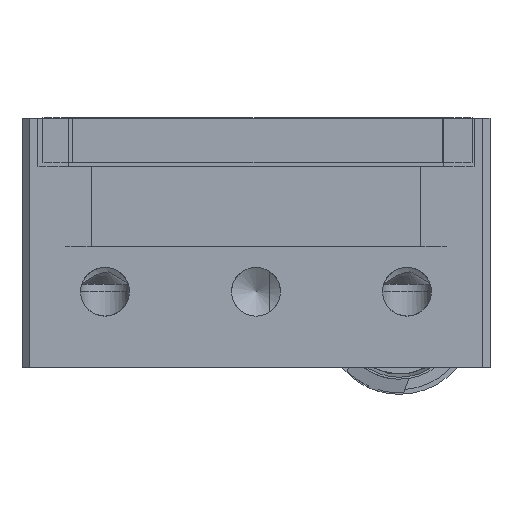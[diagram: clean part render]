
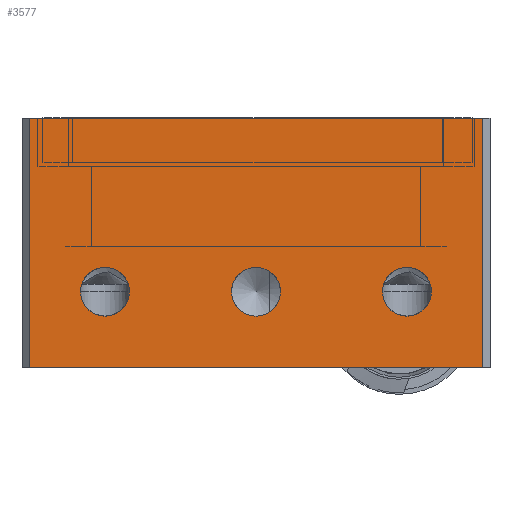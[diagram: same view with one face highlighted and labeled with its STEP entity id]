
A CAD part, front view. The second image highlights one B-rep face of the part: STEP entity #3577.
In plain terms, the highlighted planar face has unit normal (0, -1, 0).
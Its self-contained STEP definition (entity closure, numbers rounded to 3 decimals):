
#304=CIRCLE('',#5285,1.621);
#308=CIRCLE('',#5295,1.621);
#312=CIRCLE('',#5308,1.621);
#1172=ORIENTED_EDGE('',*,*,#1600,.T.);
#1173=ORIENTED_EDGE('',*,*,#1609,.T.);
#1174=ORIENTED_EDGE('',*,*,#1593,.T.);
#1175=ORIENTED_EDGE('',*,*,#1796,.F.);
#1176=ORIENTED_EDGE('',*,*,#1797,.T.);
#1177=ORIENTED_EDGE('',*,*,#1798,.T.);
#1178=ORIENTED_EDGE('',*,*,#1799,.T.);
#1593=EDGE_CURVE('',#2037,#2037,#304,.T.);
#1600=EDGE_CURVE('',#2042,#2042,#308,.T.);
#1609=EDGE_CURVE('',#2047,#2047,#312,.T.);
#1796=EDGE_CURVE('',#2172,#2173,#2407,.T.);
#1797=EDGE_CURVE('',#2172,#2174,#2408,.T.);
#1798=EDGE_CURVE('',#2174,#2175,#2409,.T.);
#1799=EDGE_CURVE('',#2175,#2173,#2410,.T.);
#2037=VERTEX_POINT('',#7742);
#2042=VERTEX_POINT('',#7757);
#2047=VERTEX_POINT('',#7775);
#2172=VERTEX_POINT('',#8326);
#2173=VERTEX_POINT('',#8327);
#2174=VERTEX_POINT('',#8329);
#2175=VERTEX_POINT('',#8331);
#2407=LINE('',#8325,#2647);
#2408=LINE('',#8328,#2648);
#2409=LINE('',#8330,#2649);
#2410=LINE('',#8332,#2650);
#2647=VECTOR('',#6397,1000.);
#2648=VECTOR('',#6398,1000.);
#2649=VECTOR('',#6399,1000.);
#2650=VECTOR('',#6400,1000.);
#2940=EDGE_LOOP('',(#1172));
#2941=EDGE_LOOP('',(#1173));
#2942=EDGE_LOOP('',(#1174));
#2943=EDGE_LOOP('',(#1175,#1176,#1177,#1178));
#3239=FACE_BOUND('',#2940,.T.);
#3240=FACE_BOUND('',#2941,.T.);
#3241=FACE_BOUND('',#2942,.T.);
#3242=FACE_BOUND('',#2943,.T.);
#3375=PLANE('',#5443);
#3577=ADVANCED_FACE('',(#3239,#3240,#3241,#3242),#3375,.F.);
#5285=AXIS2_PLACEMENT_3D('',#7741,#5981,#5982);
#5295=AXIS2_PLACEMENT_3D('',#7756,#6001,#6002);
#5308=AXIS2_PLACEMENT_3D('',#7774,#6027,#6028);
#5443=AXIS2_PLACEMENT_3D('',#8324,#6395,#6396);
#5981=DIRECTION('',(0.,1.,0.));
#5982=DIRECTION('',(0.,0.,-1.));
#6001=DIRECTION('',(0.,1.,0.));
#6002=DIRECTION('',(0.,0.,-1.));
#6027=DIRECTION('',(0.,1.,0.));
#6028=DIRECTION('',(0.,0.,-1.));
#6395=DIRECTION('',(0.,1.,0.));
#6396=DIRECTION('',(0.,0.,1.));
#6397=DIRECTION('',(-1.,0.,0.));
#6398=DIRECTION('',(0.,0.,1.));
#6399=DIRECTION('',(-1.,0.,0.));
#6400=DIRECTION('',(0.,0.,-1.));
#7741=CARTESIAN_POINT('',(0.,-403.5,-11.5));
#7742=CARTESIAN_POINT('',(0.,-403.5,-13.121));
#7756=CARTESIAN_POINT('',(-10.,-403.5,-11.5));
#7757=CARTESIAN_POINT('',(-10.,-403.5,-13.121));
#7774=CARTESIAN_POINT('',(10.,-403.5,-11.5));
#7775=CARTESIAN_POINT('',(10.,-403.5,-13.121));
#8324=CARTESIAN_POINT('',(15.5,-403.5,-16.5));
#8325=CARTESIAN_POINT('',(15.5,-403.5,-16.5));
#8326=CARTESIAN_POINT('',(15.,-403.5,-16.5));
#8327=CARTESIAN_POINT('',(-15.,-403.5,-16.5));
#8328=CARTESIAN_POINT('',(15.,-403.5,-16.5));
#8329=CARTESIAN_POINT('',(15.,-403.5,0.));
#8330=CARTESIAN_POINT('',(15.5,-403.5,0.));
#8331=CARTESIAN_POINT('',(-15.,-403.5,0.));
#8332=CARTESIAN_POINT('',(-15.,-403.5,-16.5));
